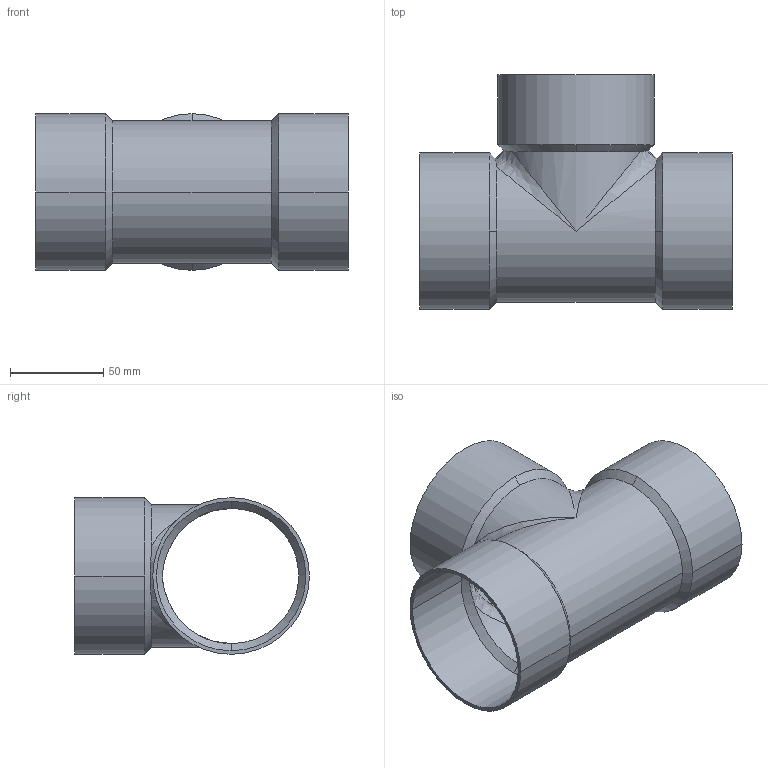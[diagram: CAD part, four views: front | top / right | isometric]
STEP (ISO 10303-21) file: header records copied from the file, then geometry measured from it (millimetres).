
FILE_DESCRIPTION((''),'2;1');
FILE_NAME('P:\Bouwmaten\z-maattekeningen 3D\5000\5130\d\513080.stp','2005-10-19T08:52:01',('Kris'),(''),'Autodesk Inventor 8','Autodesk Inventor 8','');
FILE_SCHEMA(('AUTOMOTIVE_DESIGN { 1 0 10303 214 1 1 1 1 }'));
Length unit declared in the file: millimetre
Products named in the file (1): 513080
Bounding box: 167.5 x 125.65 x 83.8 mm (x, y, z)
Volume: 97262.4 mm3; surface area: 103838.7 mm2
Topology: 1 solids, 1 shells, 39 faces, 118 edges, 72 vertices
Faces by surface type: cylinder 20, cone 12, bspline 4, plane 3
Entity records: 1915 total; most frequent: CARTESIAN_POINT 826, DIRECTION 250, ORIENTED_EDGE 220, AXIS2_PLACEMENT_3D 112, EDGE_CURVE 110, VERTEX_POINT 72, CIRCLE 60, EDGE_LOOP 42
